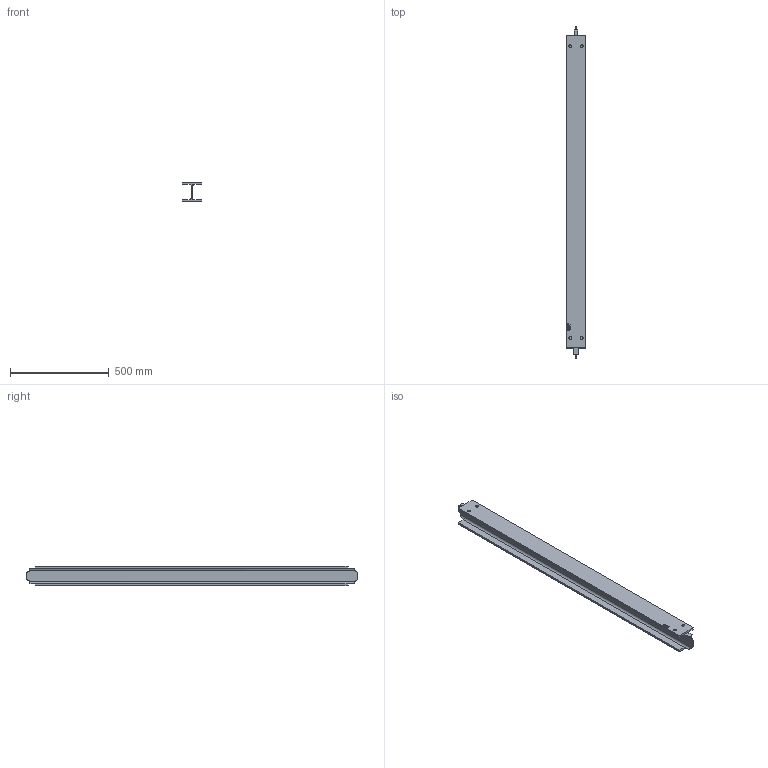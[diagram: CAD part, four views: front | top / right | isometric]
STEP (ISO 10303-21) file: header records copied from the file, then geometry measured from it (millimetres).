
FILE_DESCRIPTION (( 'STEP AP214' ), '1' );
FILE_NAME ('CCJ029-REP.009 - POUTRE DESCENTE ESCALIER.STEP', '2025-02-13T09:44:09', ( '' ), ( '' ), 'SwSTEP 2.0', 'SolidWorks 2021', '' );
FILE_SCHEMA (( 'AUTOMOTIVE_DESIGN' ));
Length unit declared in the file: millimetre
Products named in the file (1): CCJ029-REP.009 - POUTRE DESCENTE ESCALIER
Bounding box: 100 x 1678.5 x 100 mm (x, y, z)
Volume: 4152843.9 mm3; surface area: 918774.5 mm2
Topology: 1 solids, 1 shells, 74 faces, 198 edges, 132 vertices
Faces by surface type: plane 31, bspline 27, cylinder 16
Entity records: 4430 total; most frequent: CARTESIAN_POINT 2696, ORIENTED_EDGE 396, DIRECTION 264, EDGE_CURVE 198, VERTEX_POINT 132, LINE 104, VECTOR 104, EDGE_LOOP 88
